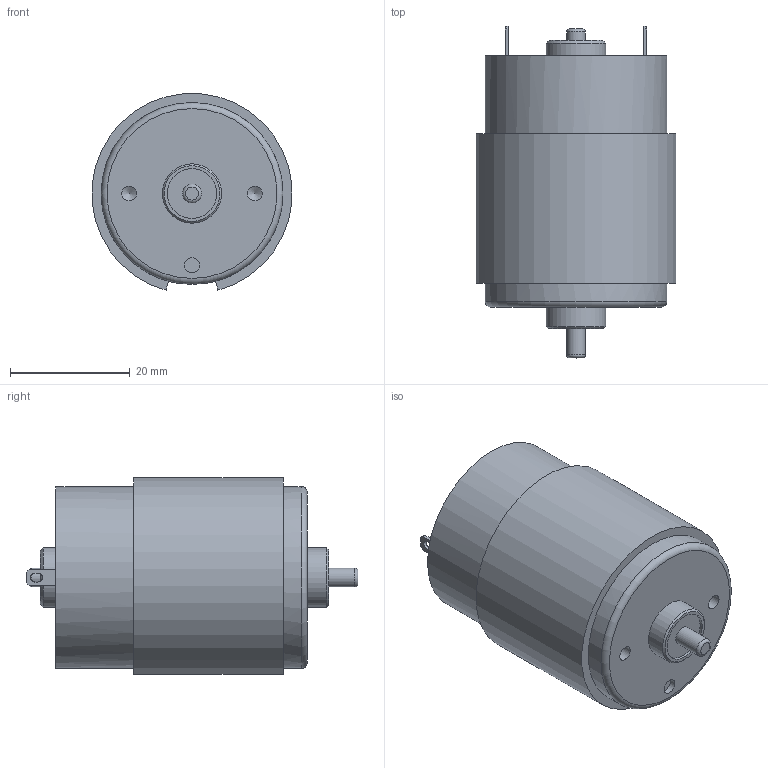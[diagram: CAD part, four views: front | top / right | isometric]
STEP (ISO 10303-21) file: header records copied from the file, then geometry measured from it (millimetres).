
FILE_DESCRIPTION(/* description */ (''),/* implementation_level */ '2;1');
FILE_NAME(/* name */ 'TP-3442.stp',/* time_stamp */ '2024-06-07T13:26:54+09:00',/* author */ ('user'),/* organization */ (''),/* preprocessor_version */ 'ST-DEVELOPER v20',/* originating_system */ 'Autodesk Inventor 2024',/* authorisation */ '');
FILE_SCHEMA (('AUTOMOTIVE_DESIGN { 1 0 10303 214 3 1 1 }'));
Length unit declared in the file: millimetre
Products named in the file (1): TP-3442#(RS-435PV)
Bounding box: 33.37 x 55.5 x 32.87 mm (x, y, z)
Volume: 34157.2 mm3; surface area: 6629.4 mm2
Topology: 1 solids, 1 shells, 108 faces, 246 edges, 160 vertices
Faces by surface type: plane 56, cylinder 39, torus 9, cone 4
Full cylindrical faces by diameter (mm): 1.5 x1, 2 x2, 2.459 x2, 2.5 x1, 2.6 x4, 3.17 x2, 8 x1, 8.3 x1, 9.9 x1, 10 x1, 29.4 x1, 30.4 x1
Entity records: 3174 total; most frequent: DIRECTION 569, CARTESIAN_POINT 513, ORIENTED_EDGE 488, EDGE_CURVE 244, AXIS2_PLACEMENT_3D 216, VERTEX_POINT 160, LINE 137, VECTOR 137
